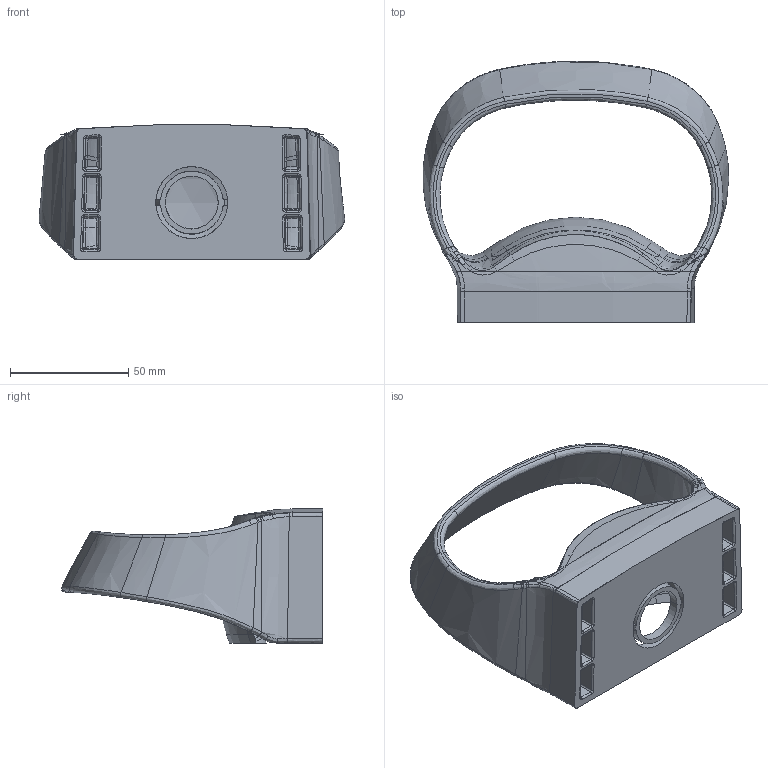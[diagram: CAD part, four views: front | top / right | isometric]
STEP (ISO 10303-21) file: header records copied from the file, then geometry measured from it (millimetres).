
FILE_DESCRIPTION((''),'2;1');
FILE_NAME('40194-191','2013-10-03T',('Gkariappa'),(''),'PRO/ENGINEER BY PARAMETRIC TECHNOLOGY CORPORATION, 2010140','PRO/ENGINEER BY PARAMETRIC TECHNOLOGY CORPORATION, 2010140','');
FILE_SCHEMA(('CONFIG_CONTROL_DESIGN'));
Length unit declared in the file: inch
Products named in the file (1): 40194-191
Bounding box: 129.14 x 110.49 x 56.7 mm (x, y, z)
Volume: 91712.1 mm3; surface area: 55045.9 mm2
Topology: 1 solids, 3 shells, 506 faces, 1236 edges, 737 vertices
Faces by surface type: bspline 363, cylinder 55, plane 39, extrusion 19, cone 14, torus 9, sphere 7
Entity records: 27253 total; most frequent: CARTESIAN_POINT 18088, ORIENTED_EDGE 2418, EDGE_CURVE 1236, DIRECTION 1098, B_SPLINE_CURVE_WITH_KNOTS 755, VERTEX_POINT 737, EDGE_LOOP 517, FACE_OUTER_BOUND 506
